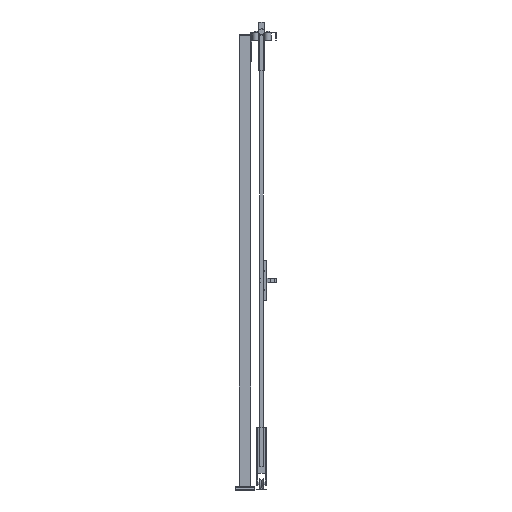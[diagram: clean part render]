
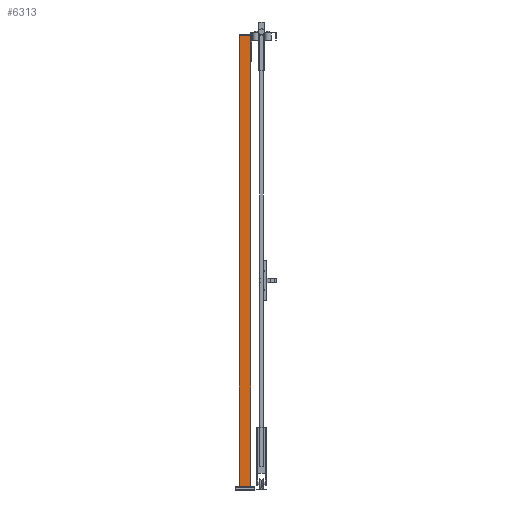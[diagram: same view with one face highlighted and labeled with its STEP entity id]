
A CAD part, left-side view. The second image highlights one B-rep face of the part: STEP entity #6313.
In plain terms, the highlighted planar face has unit normal (-1, 0, 0) as drawn and (0, 1, 0) by its records, which use the part's own axes.
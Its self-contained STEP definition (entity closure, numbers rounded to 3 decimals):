
#663=FACE_OUTER_BOUND('',#1115,.T.);
#1115=EDGE_LOOP('',(#3893,#3894,#3895,#3896));
#1632=VERTEX_POINT('',#12623);
#1633=VERTEX_POINT('',#12625);
#1635=VERTEX_POINT('',#12631);
#1638=VERTEX_POINT('',#12636);
#2556=EDGE_CURVE('',#1632,#1633,#7220,.T.);
#2562=EDGE_CURVE('',#1638,#1635,#7226,.T.);
#2565=EDGE_CURVE('',#1633,#1638,#7229,.T.);
#2566=EDGE_CURVE('',#1632,#1635,#7230,.T.);
#3893=ORIENTED_EDGE('',*,*,#2566,.T.);
#3894=ORIENTED_EDGE('',*,*,#2562,.F.);
#3895=ORIENTED_EDGE('',*,*,#2565,.F.);
#3896=ORIENTED_EDGE('',*,*,#2556,.F.);
#5925=PLANE('',#9106);
#6313=ADVANCED_FACE('',(#663),#5925,.F.);
#7220=LINE('',#12626,#8218);
#7226=LINE('',#12638,#8224);
#7229=LINE('',#12643,#8227);
#7230=LINE('',#12645,#8228);
#8218=VECTOR('',#10039,1.);
#8224=VECTOR('',#10047,1.);
#8227=VECTOR('',#10054,1.);
#8228=VECTOR('',#10057,1.);
#9106=AXIS2_PLACEMENT_3D('',#12644,#10055,#10056);
#10039=DIRECTION('',(-1.,0.,0.));
#10047=DIRECTION('',(1.,0.,0.));
#10054=DIRECTION('',(0.,0.,-1.));
#10055=DIRECTION('center_axis',(0.,-1.,0.));
#10056=DIRECTION('ref_axis',(0.,0.,-1.));
#10057=DIRECTION('',(0.,0.,-1.));
#12623=CARTESIAN_POINT('',(30.,30.,2320.));
#12625=CARTESIAN_POINT('',(-30.,30.,2320.));
#12626=CARTESIAN_POINT('',(0.,30.,2320.));
#12631=CARTESIAN_POINT('',(30.,30.,20.));
#12636=CARTESIAN_POINT('',(-30.,30.,20.));
#12638=CARTESIAN_POINT('',(0.,30.,20.));
#12643=CARTESIAN_POINT('',(-30.,30.,1170.));
#12644=CARTESIAN_POINT('Origin',(0.,30.,
1170.));
#12645=CARTESIAN_POINT('',(30.,30.,1170.));
